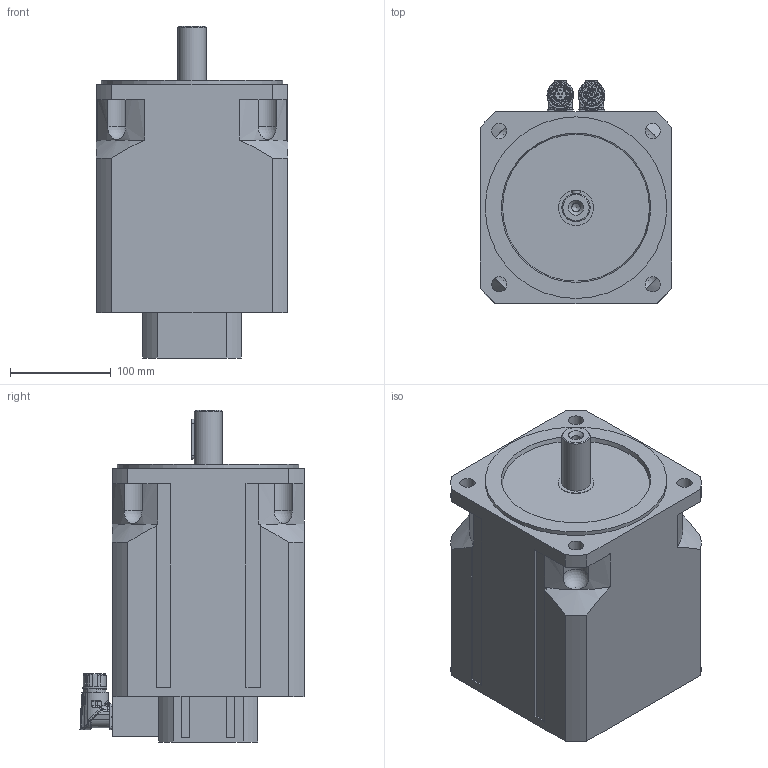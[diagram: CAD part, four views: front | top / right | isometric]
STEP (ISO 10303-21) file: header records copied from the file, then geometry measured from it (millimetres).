
FILE_DESCRIPTION((''),'2;1');
FILE_NAME('C:\PDF_output\N7028 02 P Z_6000_S1.stp','2013-04-18T11:25:35',('oslejsek'),(''),'Autodesk Inventor 2013','Autodesk Inventor 2013','');
FILE_SCHEMA(('AUTOMOTIVE_DESIGN { 1 0 10303 214 1 1 1 1 }'));
Length unit declared in the file: millimetre
Products named in the file (4): N7028 02 P Z_6000_S1; N7028 02 P_6000; BEW_0207_8-polig Stifte; AEW_0214_12-polig Stift
Assembly tree (3 placements, depth 2):
  N7028 02 P Z_6000_S1
    N7028 02 P_6000
    BEW_0207_8-polig Stifte
    AEW_0214_12-polig Stift
Bounding box: 190 x 222 x 329 mm (x, y, z)
Volume: 8481053.5 mm3; surface area: 291651.7 mm2
Topology: 3 solids, 3 shells, 960 faces, 2452 edges, 1559 vertices
Faces by surface type: cylinder 280, plane 279, bspline 264, cone 69, torus 44, sphere 24
Full cylindrical faces by diameter (mm): 1 x16, 1.18 x12, 1.2 x12, 1.3 x4, 2 x4, 2.15 x4, 2.7 x8, 3 x4, 4.5 x2, 5.8 x1, 5.9 x2, 6.8 x1, 8.376 x1, 15 x4, 15.2 x1, 17.4 x1, 19.1 x1, 19.8 x2, 19.9 x1, 20 x2, 21.15 x4, 21.6 x1, 28 x1, 35 x1, 180 x1
Entity records: 36706 total; most frequent: CARTESIAN_POINT 14827, ORIENTED_EDGE 4412, DIRECTION 4015, EDGE_CURVE 2206, AXIS2_PLACEMENT_3D 1648, VERTEX_POINT 1475, EDGE_LOOP 1205, FACE_OUTER_BOUND 958
